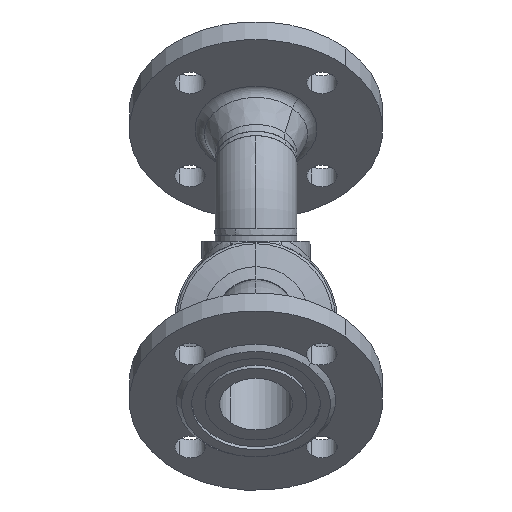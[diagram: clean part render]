
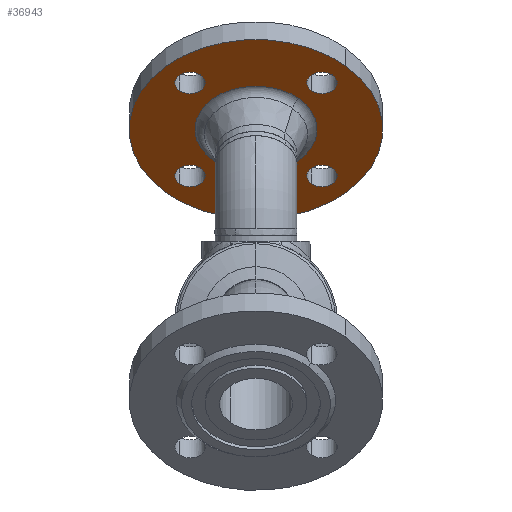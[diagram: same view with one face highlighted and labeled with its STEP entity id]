
A CAD part, front view. The second image highlights one B-rep face of the part: STEP entity #36943.
In plain terms, the highlighted planar face has unit normal (0, -0.707, -0.707) as drawn and (0, 1, 0) by its records, which use the part's own axes.
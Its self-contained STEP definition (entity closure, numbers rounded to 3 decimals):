
#32790 = CARTESIAN_POINT ( 'NONE',  ( 9., 18., 55. ) ) ;
#149 = EDGE_CURVE ( 'NONE', #2973, #51583, #37832, .T. ) ;
#16697 = EDGE_LOOP ( 'NONE', ( #15304, #13912 ) ) ;
#527 = CARTESIAN_POINT ( 'NONE',  ( -9., 18., 55. ) ) ;
#33281 = FACE_BOUND ( 'NONE', #36298, .T. ) ;
#33282 = FACE_BOUND ( 'NONE', #37815, .T. ) ;
#33283 = FACE_BOUND ( 'NONE', #33460, .T. ) ;
#33284 = FACE_BOUND ( 'NONE', #11922, .T. ) ;
#33285 = FACE_BOUND ( 'NONE', #7478, .T. ) ;
#33286 = FACE_OUTER_BOUND ( 'NONE', #16697, .T. ) ;
#33287 = PLANE ( 'NONE',  #33288 ) ;
#33288 = AXIS2_PLACEMENT_3D ( 'NONE', #33289, #33290, #33291 ) ;
#33289 = CARTESIAN_POINT ( 'NONE',  ( 75., 18., 0. ) ) ;
#33290 = DIRECTION ( 'NONE',  ( 0., -1., 0. ) ) ;
#33291 = DIRECTION ( 'NONE',  ( 1., 0., 0. ) ) ;
#33460 = EDGE_LOOP ( 'NONE', ( #32071, #12565 ) ) ;
#33583 = CARTESIAN_POINT ( 'NONE',  ( -75., 18., 0. ) ) ;
#868 = CIRCLE ( 'NONE', #869, 9. ) ;
#869 = AXIS2_PLACEMENT_3D ( 'NONE', #870, #871, #872 ) ;
#870 = CARTESIAN_POINT ( 'NONE',  ( 0., 18., -55. ) ) ;
#871 = DIRECTION ( 'NONE',  ( 0., 1., 0. ) ) ;
#872 = DIRECTION ( 'NONE',  ( 0., 0., 1. ) ) ;
#17344 = ORIENTED_EDGE ( 'NONE', *, *, #6684, .F. ) ;
#973 = CIRCLE ( 'NONE', #974, 9. ) ;
#974 = AXIS2_PLACEMENT_3D ( 'NONE', #975, #1010, #1011 ) ;
#975 = CARTESIAN_POINT ( 'NONE',  ( 0., 18., 55. ) ) ;
#1010 = DIRECTION ( 'NONE',  ( 0., 1., 0. ) ) ;
#1011 = DIRECTION ( 'NONE',  ( 0., 0., -1. ) ) ;
#33917 = EDGE_CURVE ( 'NONE', #30686, #31726, #868, .T. ) ;
#34118 = ORIENTED_EDGE ( 'NONE', *, *, #149, .F. ) ;
#34908 = ORIENTED_EDGE ( 'NONE', *, *, #33917, .F. ) ;
#35106 = VERTEX_POINT ( 'NONE', #30457 ) ;
#51583 = VERTEX_POINT ( 'NONE', #48530 ) ;
#35506 = EDGE_CURVE ( 'NONE', #51583, #2973, #31547, .T. ) ;
#2973 = VERTEX_POINT ( 'NONE', #39852 ) ;
#36298 = EDGE_LOOP ( 'NONE', ( #34908, #32521 ) ) ;
#36497 = ORIENTED_EDGE ( 'NONE', *, *, #35506, .F. ) ;
#36943 = ADVANCED_FACE ( 'NONE', ( #33281, #33282, #33283, #33284, #33285, #33286 ), #33287, .F. ) ;
#20819 = VERTEX_POINT ( 'NONE', #527 ) ;
#37244 = VERTEX_POINT ( 'NONE', #33583 ) ;
#21413 = EDGE_CURVE ( 'NONE', #23787, #20819, #973, .T. ) ;
#37815 = EDGE_LOOP ( 'NONE', ( #36497, #34118 ) ) ;
#37832 = CIRCLE ( 'NONE', #37883, 9. ) ;
#37881 = EDGE_CURVE ( 'NONE', #37244, #41032, #48587, .T. ) ;
#37883 = AXIS2_PLACEMENT_3D ( 'NONE', #37884, #37885, #37886 ) ;
#37884 = CARTESIAN_POINT ( 'NONE',  ( -55., 18., 0. ) ) ;
#37885 = DIRECTION ( 'NONE',  ( 0., 1., 0. ) ) ;
#37886 = DIRECTION ( 'NONE',  ( 1., 0., 0. ) ) ;
#38078 = EDGE_CURVE ( 'NONE', #35106, #9520, #48890, .T. ) ;
#6534 = ORIENTED_EDGE ( 'NONE', *, *, #38078, .F. ) ;
#22946 = CIRCLE ( 'NONE', #22981, 9. ) ;
#22981 = AXIS2_PLACEMENT_3D ( 'NONE', #22982, #22983, #22984 ) ;
#22982 = CARTESIAN_POINT ( 'NONE',  ( 55., 18., 0. ) ) ;
#22983 = DIRECTION ( 'NONE',  ( 0., 1., 0. ) ) ;
#22984 = DIRECTION ( 'NONE',  ( -1., 0., 0. ) ) ;
#6684 = EDGE_CURVE ( 'NONE', #9520, #35106, #10629, .T. ) ;
#23383 = CIRCLE ( 'NONE', #23384, 9. ) ;
#23384 = AXIS2_PLACEMENT_3D ( 'NONE', #23385, #23386, #23387 ) ;
#23385 = CARTESIAN_POINT ( 'NONE',  ( 0., 18., 55. ) ) ;
#23386 = DIRECTION ( 'NONE',  ( 0., 1., 0. ) ) ;
#23387 = DIRECTION ( 'NONE',  ( 0., 0., -1. ) ) ;
#39852 = CARTESIAN_POINT ( 'NONE',  ( -46., 18., 0. ) ) ;
#7236 = CARTESIAN_POINT ( 'NONE',  ( -9., 18., -55. ) ) ;
#23787 = VERTEX_POINT ( 'NONE', #32790 ) ;
#7478 = EDGE_LOOP ( 'NONE', ( #6534, #17344 ) ) ;
#24080 = CARTESIAN_POINT ( 'NONE',  ( 75., 18., 0. ) ) ;
#8122 = ORIENTED_EDGE ( 'NONE', *, *, #13565, .F. ) ;
#8181 = CIRCLE ( 'NONE', #8182, 9. ) ;
#8182 = AXIS2_PLACEMENT_3D ( 'NONE', #8183, #8184, #8185 ) ;
#8183 = CARTESIAN_POINT ( 'NONE',  ( 0., 18., -55. ) ) ;
#8184 = DIRECTION ( 'NONE',  ( 0., 1., 0. ) ) ;
#8185 = DIRECTION ( 'NONE',  ( 0., 0., 1. ) ) ;
#41032 = VERTEX_POINT ( 'NONE', #24080 ) ;
#24821 = CARTESIAN_POINT ( 'NONE',  ( 64., 18., 0. ) ) ;
#9520 = VERTEX_POINT ( 'NONE', #30206 ) ;
#9521 = EDGE_CURVE ( 'NONE', #12966, #15949, #30207, .T. ) ;
#10136 = CARTESIAN_POINT ( 'NONE',  ( 9., 18., -55. ) ) ;
#10526 = ORIENTED_EDGE ( 'NONE', *, *, #9521, .F. ) ;
#10629 = CIRCLE ( 'NONE', #10630, 36.091 ) ;
#10630 = AXIS2_PLACEMENT_3D ( 'NONE', #10631, #10632, #10633 ) ;
#10631 = CARTESIAN_POINT ( 'NONE',  ( 0., 18., 0. ) ) ;
#10632 = DIRECTION ( 'NONE',  ( 0., 1., 0. ) ) ;
#10633 = DIRECTION ( 'NONE',  ( -1., 0., 0. ) ) ;
#10825 = CIRCLE ( 'NONE', #10858, 75. ) ;
#10858 = AXIS2_PLACEMENT_3D ( 'NONE', #10859, #10860, #10861 ) ;
#10859 = CARTESIAN_POINT ( 'NONE',  ( 0., 18., 0. ) ) ;
#10860 = DIRECTION ( 'NONE',  ( 0., 1., 0. ) ) ;
#10861 = DIRECTION ( 'NONE',  ( -1., 0., 0. ) ) ;
#10868 = CARTESIAN_POINT ( 'NONE',  ( 46., 18., 0. ) ) ;
#11922 = EDGE_LOOP ( 'NONE', ( #10526, #8122 ) ) ;
#12565 = ORIENTED_EDGE ( 'NONE', *, *, #21413, .F. ) ;
#12916 = EDGE_CURVE ( 'NONE', #41032, #37244, #10825, .T. ) ;
#12966 = VERTEX_POINT ( 'NONE', #10868 ) ;
#13565 = EDGE_CURVE ( 'NONE', #15949, #12966, #22946, .T. ) ;
#30206 = CARTESIAN_POINT ( 'NONE',  ( 36.091, 18., 0. ) ) ;
#30207 = CIRCLE ( 'NONE', #30208, 9. ) ;
#30208 = AXIS2_PLACEMENT_3D ( 'NONE', #30209, #30210, #30211 ) ;
#30209 = CARTESIAN_POINT ( 'NONE',  ( 55., 18., 0. ) ) ;
#30210 = DIRECTION ( 'NONE',  ( 0., 1., 0. ) ) ;
#30211 = DIRECTION ( 'NONE',  ( -1., 0., 0. ) ) ;
#13912 = ORIENTED_EDGE ( 'NONE', *, *, #12916, .T. ) ;
#13961 = EDGE_CURVE ( 'NONE', #20819, #23787, #23383, .T. ) ;
#30457 = CARTESIAN_POINT ( 'NONE',  ( -36.091, 18., 0. ) ) ;
#30686 = VERTEX_POINT ( 'NONE', #7236 ) ;
#31088 = EDGE_CURVE ( 'NONE', #31726, #30686, #8181, .T. ) ;
#31547 = CIRCLE ( 'NONE', #31548, 9. ) ;
#31548 = AXIS2_PLACEMENT_3D ( 'NONE', #31549, #31550, #31551 ) ;
#31549 = CARTESIAN_POINT ( 'NONE',  ( -55., 18., 0. ) ) ;
#31550 = DIRECTION ( 'NONE',  ( 0., 1., 0. ) ) ;
#31551 = DIRECTION ( 'NONE',  ( 1., 0., 0. ) ) ;
#15304 = ORIENTED_EDGE ( 'NONE', *, *, #37881, .T. ) ;
#31726 = VERTEX_POINT ( 'NONE', #10136 ) ;
#32071 = ORIENTED_EDGE ( 'NONE', *, *, #13961, .F. ) ;
#48530 = CARTESIAN_POINT ( 'NONE',  ( -64., 18., 0. ) ) ;
#48587 = CIRCLE ( 'NONE', #48588, 75. ) ;
#48588 = AXIS2_PLACEMENT_3D ( 'NONE', #48589, #48590, #48591 ) ;
#48589 = CARTESIAN_POINT ( 'NONE',  ( 0., 18., 0. ) ) ;
#48590 = DIRECTION ( 'NONE',  ( 0., 1., 0. ) ) ;
#48591 = DIRECTION ( 'NONE',  ( -1., 0., 0. ) ) ;
#15949 = VERTEX_POINT ( 'NONE', #24821 ) ;
#48890 = CIRCLE ( 'NONE', #48891, 36.091 ) ;
#48891 = AXIS2_PLACEMENT_3D ( 'NONE', #48892, #48893, #48928 ) ;
#48892 = CARTESIAN_POINT ( 'NONE',  ( 0., 18., 0. ) ) ;
#48893 = DIRECTION ( 'NONE',  ( 0., 1., 0. ) ) ;
#32521 = ORIENTED_EDGE ( 'NONE', *, *, #31088, .F. ) ;
#48928 = DIRECTION ( 'NONE',  ( -1., 0., 0. ) ) ;
